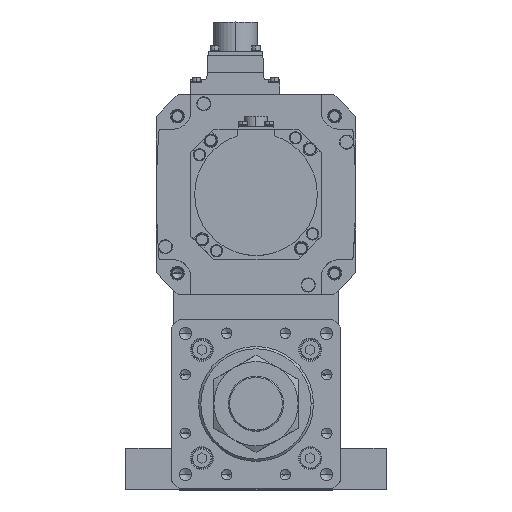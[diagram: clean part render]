
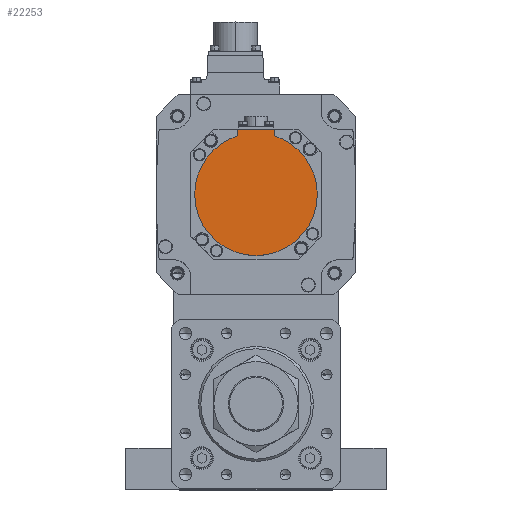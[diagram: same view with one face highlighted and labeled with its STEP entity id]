
A CAD part, top view. The second image highlights one B-rep face of the part: STEP entity #22253.
In plain terms, the highlighted planar face has unit normal (0, 0, 1) as drawn and (0, 0, -1) by its records, which use the part's own axes.
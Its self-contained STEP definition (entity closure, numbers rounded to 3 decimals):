
#410 = DIRECTION ( 'NONE',  ( 1., 0., 0. ) ) ;
#780 = DIRECTION ( 'NONE',  ( 0., 0., 1. ) ) ;
#809 = CARTESIAN_POINT ( 'NONE',  ( -12., -40.329, -132.5 ) ) ;
#1489 = VECTOR ( 'NONE', #3678, 1000. ) ;
#2160 = EDGE_CURVE ( 'NONE', #29999, #23833, #33720, .T. ) ;
#3678 = DIRECTION ( 'NONE',  ( 0., 1., 0. ) ) ;
#3889 = ORIENTED_EDGE ( 'NONE', *, *, #34872, .T. ) ;
#4445 = EDGE_CURVE ( 'NONE', #7539, #28083, #24450, .T. ) ;
#4479 = LINE ( 'NONE', #809, #1489 ) ;
#4751 = EDGE_CURVE ( 'NONE', #24018, #21733, #21848, .T. ) ;
#5539 = ORIENTED_EDGE ( 'NONE', *, *, #2160, .F. ) ;
#5619 = EDGE_LOOP ( 'NONE', ( #3889, #5539, #26772, #11759, #29155, #32178 ) ) ;
#6163 = DIRECTION ( 'NONE',  ( 0., 0., 1. ) ) ;
#6888 = AXIS2_PLACEMENT_3D ( 'NONE', #21219, #7705, #13058 ) ;
#7373 = EDGE_CURVE ( 'NONE', #7539, #24018, #24212, .T. ) ;
#7539 = VERTEX_POINT ( 'NONE', #16293 ) ;
#7705 = DIRECTION ( 'NONE',  ( 0., 0., 1. ) ) ;
#8529 = AXIS2_PLACEMENT_3D ( 'NONE', #8936, #780, #28373 ) ;
#8861 = DIRECTION ( 'NONE',  ( -1., 0., 0. ) ) ;
#8936 = CARTESIAN_POINT ( 'NONE',  ( 0., 0., -132.5 ) ) ;
#9535 = DIRECTION ( 'NONE',  ( 0., 0., 1. ) ) ;
#10460 = PLANE ( 'NONE',  #6888 ) ;
#11759 = ORIENTED_EDGE ( 'NONE', *, *, #4751, .F. ) ;
#13058 = DIRECTION ( 'NONE',  ( 1., 0., 0. ) ) ;
#13980 = CARTESIAN_POINT ( 'NONE',  ( 12., -38.158, -132.5 ) ) ;
#14086 = CARTESIAN_POINT ( 'NONE',  ( 0., -42.5, -132.5 ) ) ;
#15247 = DIRECTION ( 'NONE',  ( 1., 0., 0. ) ) ;
#15311 = CARTESIAN_POINT ( 'NONE',  ( -40., 0., -132.5 ) ) ;
#16293 = CARTESIAN_POINT ( 'NONE',  ( 12., -42.5, -132.5 ) ) ;
#16986 = VECTOR ( 'NONE', #23400, 1000. ) ;
#17663 = CARTESIAN_POINT ( 'NONE',  ( 0., 0., -132.5 ) ) ;
#19801 = CARTESIAN_POINT ( 'NONE',  ( -12., -42.5, -132.5 ) ) ;
#21219 = CARTESIAN_POINT ( 'NONE',  ( 0., -1.249, -132.5 ) ) ;
#21733 = VERTEX_POINT ( 'NONE', #24002 ) ;
#21848 = CIRCLE ( 'NONE', #8529, 40. ) ;
#22253 = ADVANCED_FACE ( 'NONE', ( #33144 ), #10460, .F. ) ;
#22561 = CARTESIAN_POINT ( 'NONE',  ( 0., 0., -132.5 ) ) ;
#22751 = VECTOR ( 'NONE', #8861, 1000. ) ;
#23400 = DIRECTION ( 'NONE',  ( 0., 1., 0. ) ) ;
#23833 = VERTEX_POINT ( 'NONE', #29524 ) ;
#24002 = CARTESIAN_POINT ( 'NONE',  ( 40., 0., -132.5 ) ) ;
#24018 = VERTEX_POINT ( 'NONE', #13980 ) ;
#24212 = LINE ( 'NONE', #28743, #16986 ) ;
#24450 = LINE ( 'NONE', #14086, #22751 ) ;
#24800 = EDGE_CURVE ( 'NONE', #21733, #29999, #25543, .T. ) ;
#25543 = CIRCLE ( 'NONE', #25735, 40. ) ;
#25735 = AXIS2_PLACEMENT_3D ( 'NONE', #17663, #9535, #15247 ) ;
#26772 = ORIENTED_EDGE ( 'NONE', *, *, #24800, .F. ) ;
#28083 = VERTEX_POINT ( 'NONE', #19801 ) ;
#28373 = DIRECTION ( 'NONE',  ( 1., 0., 0. ) ) ;
#28743 = CARTESIAN_POINT ( 'NONE',  ( 12., -1.249, -132.5 ) ) ;
#29155 = ORIENTED_EDGE ( 'NONE', *, *, #7373, .F. ) ;
#29524 = CARTESIAN_POINT ( 'NONE',  ( -12., -38.158, -132.5 ) ) ;
#29999 = VERTEX_POINT ( 'NONE', #15311 ) ;
#32178 = ORIENTED_EDGE ( 'NONE', *, *, #4445, .T. ) ;
#33144 = FACE_OUTER_BOUND ( 'NONE', #5619, .T. ) ;
#33720 = CIRCLE ( 'NONE', #34812, 40. ) ;
#34812 = AXIS2_PLACEMENT_3D ( 'NONE', #22561, #6163, #410 ) ;
#34872 = EDGE_CURVE ( 'NONE', #28083, #23833, #4479, .T. ) ;
